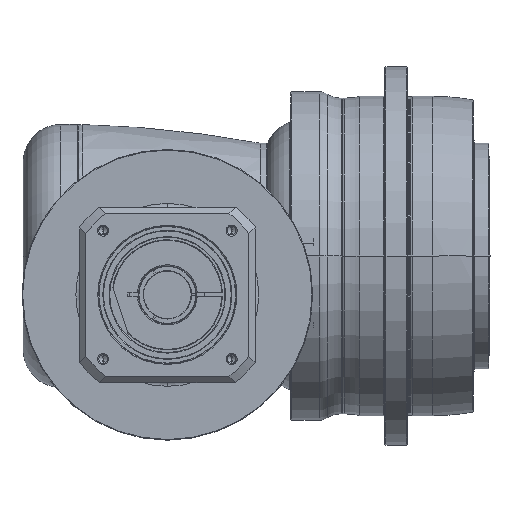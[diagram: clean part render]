
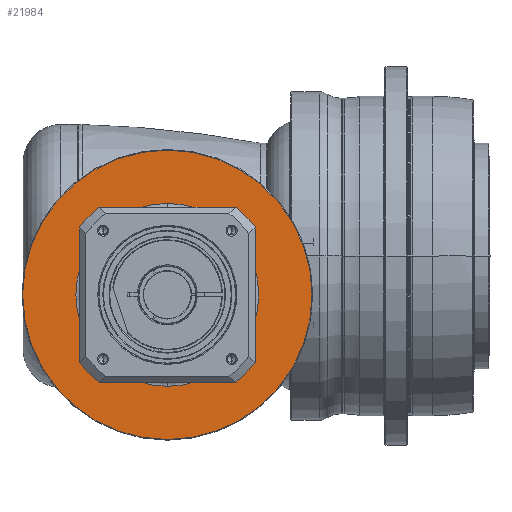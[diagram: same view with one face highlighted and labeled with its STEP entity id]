
A CAD part, front view. The second image highlights one B-rep face of the part: STEP entity #21984.
In plain terms, the highlighted planar face has unit normal (0, -1, 0) as drawn and (1, 0, 0) by its records, which use the part's own axes.
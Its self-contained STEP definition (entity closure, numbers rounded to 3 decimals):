
#20615=CARTESIAN_POINT('',(-7.5,0.,0.));
#20616=DIRECTION('',(-1.,0.,0.));
#20617=DIRECTION('',(0.,-1.,0.));
#20618=AXIS2_PLACEMENT_3D('',#20615,#20616,#20617);
#20620=CARTESIAN_POINT('',(-7.5,0.,0.));
#20621=DIRECTION('',(-1.,0.,0.));
#20622=DIRECTION('',(0.,1.,0.));
#20623=AXIS2_PLACEMENT_3D('',#20620,#20621,#20622);
#20625=CARTESIAN_POINT('',(-7.5,0.,0.));
#20626=DIRECTION('',(-1.,0.,0.));
#20627=DIRECTION('',(0.,-1.,0.));
#20628=AXIS2_PLACEMENT_3D('',#20625,#20626,#20627);
#20630=CARTESIAN_POINT('',(-7.5,0.,0.));
#20631=DIRECTION('',(-1.,0.,0.));
#20632=DIRECTION('',(0.,1.,0.));
#20633=AXIS2_PLACEMENT_3D('',#20630,#20631,#20632);
#20908=CARTESIAN_POINT('',(-7.5,-115.5,0.));
#20909=CARTESIAN_POINT('',(-7.5,115.5,0.));
#20910=VERTEX_POINT('',#20908);
#20911=VERTEX_POINT('',#20909);
#20924=CARTESIAN_POINT('',(-7.5,-73.,0.));
#20925=CARTESIAN_POINT('',(-7.5,73.,0.));
#20926=VERTEX_POINT('',#20924);
#20927=VERTEX_POINT('',#20925);
#21969=CARTESIAN_POINT('',(-7.5,0.,0.));
#21970=DIRECTION('',(1.,0.,0.));
#21971=DIRECTION('',(0.,-1.,0.));
#21972=AXIS2_PLACEMENT_3D('',#21969,#21970,#21971);
#21973=PLANE('',#21972);
#21974=ORIENTED_EDGE('',*,*,#21925,.T.);
#21975=ORIENTED_EDGE('',*,*,#21910,.T.);
#21976=EDGE_LOOP('',(#21974,#21975));
#21977=FACE_OUTER_BOUND('',#21976,.F.);
#21979=ORIENTED_EDGE('',*,*,#21978,.F.);
#21981=ORIENTED_EDGE('',*,*,#21980,.F.);
#21982=EDGE_LOOP('',(#21979,#21981));
#21983=FACE_BOUND('',#21982,.F.);
#21984=ADVANCED_FACE('',(#21977,#21983),#21973,.T.);
#20619=CIRCLE('',#20618,73.);
#20624=CIRCLE('',#20623,73.);
#20629=CIRCLE('',#20628,115.5);
#20634=CIRCLE('',#20633,115.5);
#21910=EDGE_CURVE('',#20911,#20910,#20634,.T.);
#21925=EDGE_CURVE('',#20910,#20911,#20629,.T.);
#21978=EDGE_CURVE('',#20926,#20927,#20619,.T.);
#21980=EDGE_CURVE('',#20927,#20926,#20624,.T.);
